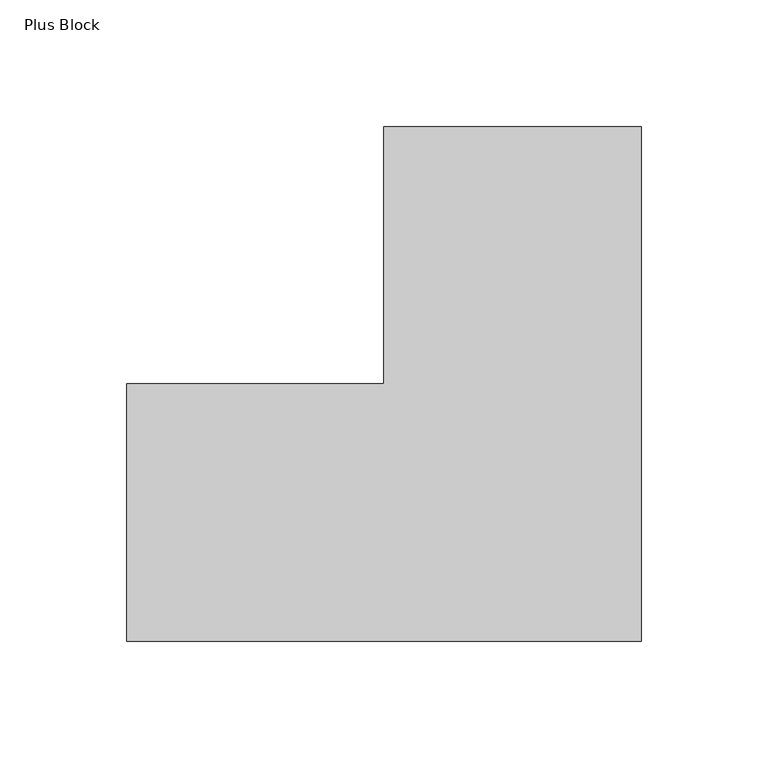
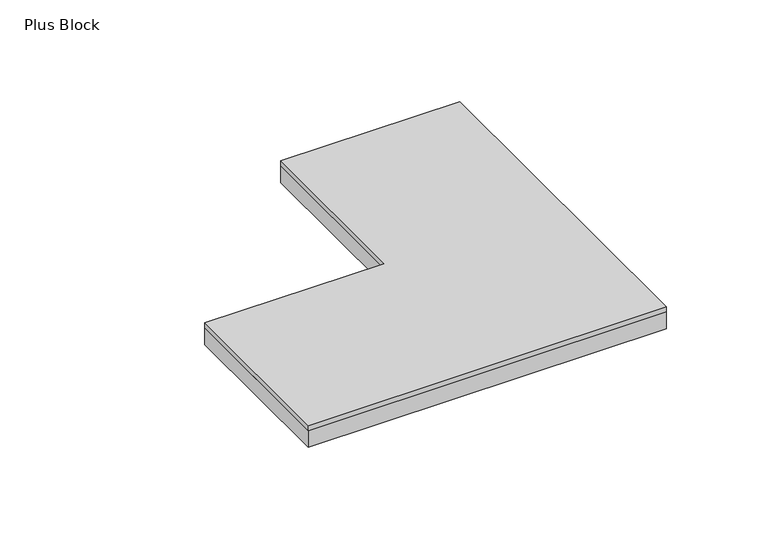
"""IFC4 building model written with IfcOpenShell, lengths in millimetres: proxy geometry, FilzFelt_Plus_Block : Plus Block."""

from ifc_helpers import new_model, si_unit, frame, origin, origin_with_axes, place, context, project, spatial, polyline, outline, extrude, source, transform, mapped, element, save


def plus_block_65c94e6b(model_context):
    return source(origin(), model_context, "Body", "SweptSolid", [
        extrude(outline(polyline([(-152.5, -50.8333333), (-152.5, 50.8333333), (-50.8333333, 50.8333333), (-50.8333333, 152.5), (50.8333333, 152.5), (50.8333333, -50.8333333), (-152.5, -50.8333333)])), frame((0.0, 0.0, 10.0210937), z_axis=(0.0, 0.0, 1.0), x_axis=(1.0, 0.0, 0.0)), (0.0, 0.0, 1.0), 2.9765625),
        extrude(outline(polyline([(-152.5, -50.8333333), (-152.5, 50.8333333), (-50.8333333, 50.8333333), (-50.8333333, 152.5), (50.8333333, 152.5), (50.8333333, -50.8333333), (-152.5, -50.8333333)])), origin_with_axes(), (0.0, 0.0, 1.0), 10.0210938),
    ])


if __name__ == "__main__":
    model = new_model("IFC4")
    model_context = context("Model", 3, world=origin())
    ifc_project = project(units=[si_unit("LENGTHUNIT", "METRE", prefix="MILLI")], contexts=[model_context])
    site = spatial("IfcSite", under=ifc_project)
    building = spatial("IfcBuilding", under=site)
    placement = place(None, origin())
    plus_block_shape = plus_block_65c94e6b(model_context)
    element("IfcBuildingElementProxy", 1, Name="FilzFelt_Plus_Block : Plus Block", ObjectType="FilzFelt_Plus_Block : Plus Block", at=placement, inside=building, context=model_context, shape_type="MappedRepresentation", body=[
        mapped(plus_block_shape, transform((0.0, 0.0, 0.0), x_axis=(1.0, 0.0, 0.0), y_axis=(0.0, 1.0, 0.0), z_axis=(0.0, 0.0, 1.0))),
    ])
    save(model, "model.ifc")
